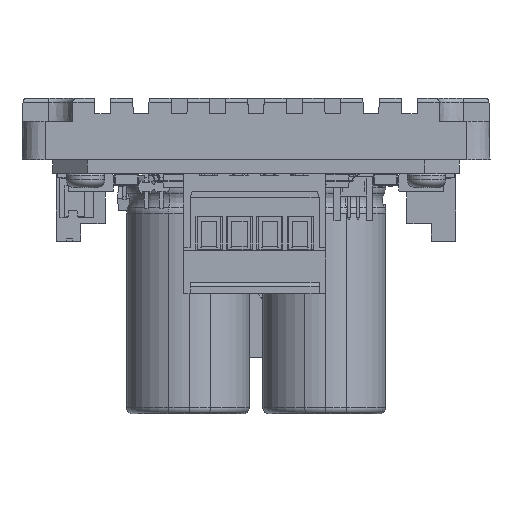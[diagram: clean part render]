
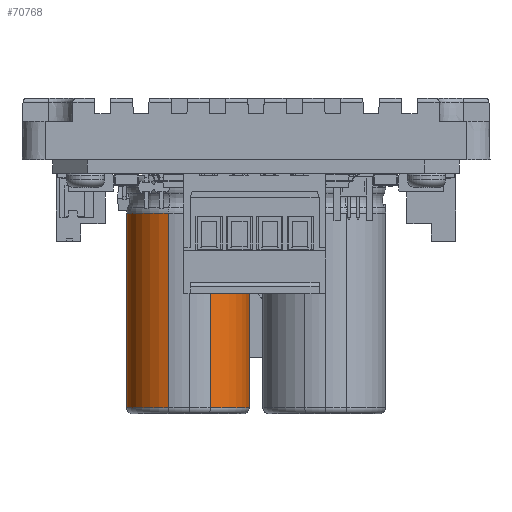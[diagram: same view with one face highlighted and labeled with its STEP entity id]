
A CAD part, front view. The second image highlights one B-rep face of the part: STEP entity #70768.
In plain terms, the highlighted cylindrical face has radius 8 mm (diameter 16 mm), a partial arc.
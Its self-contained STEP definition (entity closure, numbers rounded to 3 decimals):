
#70459=CARTESIAN_POINT('',(0.,0.,-18.642));
#70460=DIRECTION('',(0.,0.,-1.));
#70461=DIRECTION('',(-1.,0.,0.));
#70462=AXIS2_PLACEMENT_3D('',#70459,#70460,#70461);
#70464=CARTESIAN_POINT('',(0.,0.,-18.642));
#70465=DIRECTION('',(0.,0.,-1.));
#70466=DIRECTION('',(0.94,-0.342,0.));
#70467=AXIS2_PLACEMENT_3D('',#70464,#70465,#70466);
#70479=DIRECTION('',(0.,0.,1.));
#70480=VECTOR('',#70479,25.388);
#70481=CARTESIAN_POINT('',(7.518,-2.736,
-18.642));
#70482=LINE('',#70481,#70480);
#70483=DIRECTION('',(0.,0.,-1.));
#70484=VECTOR('',#70483,25.388);
#70485=CARTESIAN_POINT('',(7.518,2.736,6.746));
#70486=LINE('',#70485,#70484);
#70487=CARTESIAN_POINT('',(0.,0.,6.746));
#70488=DIRECTION('',(0.,0.,1.));
#70489=DIRECTION('',(-1.,0.,0.));
#70490=AXIS2_PLACEMENT_3D('',#70487,#70488,#70489);
#70492=CARTESIAN_POINT('',(0.,0.,6.746));
#70493=DIRECTION('',(0.,0.,1.));
#70494=DIRECTION('',(0.94,0.342,0.));
#70495=AXIS2_PLACEMENT_3D('',#70492,#70493,#70494);
#70606=CARTESIAN_POINT('',(-8.,0.,6.746));
#70607=CARTESIAN_POINT('',(7.518,-2.736,
6.746));
#70608=VERTEX_POINT('',#70606);
#70609=VERTEX_POINT('',#70607);
#70610=CARTESIAN_POINT('',(7.518,2.736,6.746));
#70611=VERTEX_POINT('',#70610);
#70612=CARTESIAN_POINT('',(7.518,2.736,
-18.642));
#70613=VERTEX_POINT('',#70612);
#70614=CARTESIAN_POINT('',(-8.,0.,-18.642));
#70615=VERTEX_POINT('',#70614);
#70616=CARTESIAN_POINT('',(7.518,-2.736,
-18.642));
#70617=VERTEX_POINT('',#70616);
#70752=CARTESIAN_POINT('',(0.,0.,-5.779));
#70753=DIRECTION('',(0.,0.,1.));
#70754=DIRECTION('',(1.,0.,0.));
#70755=AXIS2_PLACEMENT_3D('',#70752,#70753,#70754);
#70756=CYLINDRICAL_SURFACE('',#70755,8.);
#70758=ORIENTED_EDGE('',*,*,#70757,.T.);
#70760=ORIENTED_EDGE('',*,*,#70759,.F.);
#70761=ORIENTED_EDGE('',*,*,#70742,.T.);
#70762=ORIENTED_EDGE('',*,*,#70740,.T.);
#70763=ORIENTED_EDGE('',*,*,#70694,.F.);
#70765=ORIENTED_EDGE('',*,*,#70764,.T.);
#70766=EDGE_LOOP('',(#70758,#70760,#70761,#70762,#70763,#70765));
#70767=FACE_OUTER_BOUND('',#70766,.F.);
#70768=ADVANCED_FACE('',(#70767),#70756,.T.);
#70463=CIRCLE('',#70462,8.);
#70468=CIRCLE('',#70467,8.);
#70491=CIRCLE('',#70490,8.);
#70496=CIRCLE('',#70495,8.);
#70694=EDGE_CURVE('',#70611,#70613,#70486,.T.);
#70740=EDGE_CURVE('',#70615,#70613,#70463,.T.);
#70742=EDGE_CURVE('',#70617,#70615,#70468,.T.);
#70757=EDGE_CURVE('',#70608,#70609,#70491,.T.);
#70759=EDGE_CURVE('',#70617,#70609,#70482,.T.);
#70764=EDGE_CURVE('',#70611,#70608,#70496,.T.);
